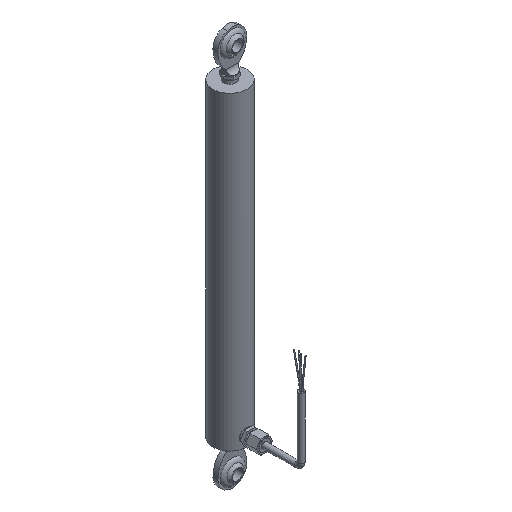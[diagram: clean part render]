
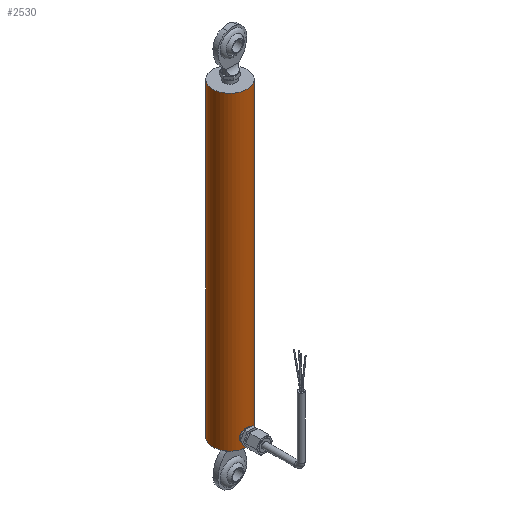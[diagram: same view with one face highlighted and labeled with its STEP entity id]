
A CAD part, isometric view. The second image highlights one B-rep face of the part: STEP entity #2530.
In plain terms, the highlighted cylindrical face has radius 13.335 mm (diameter 26.67 mm), a full revolution.
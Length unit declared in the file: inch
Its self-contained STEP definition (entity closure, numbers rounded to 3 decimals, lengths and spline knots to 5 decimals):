
#68=B_SPLINE_CURVE_WITH_KNOTS('',3,(#4339,#4340,#4341,#4342,#4343,#4344,
#4345,#4346,#4347,#4348),.UNSPECIFIED.,.F.,.F.,(4,2,2,2,4),(0.,0.19357,
0.38715,0.58056,0.77398),.UNSPECIFIED.);
#69=B_SPLINE_CURVE_WITH_KNOTS('',3,(#4349,#4350,#4351,#4352,#4353,#4354,
#4355,#4356,#4357,#4358),.UNSPECIFIED.,.F.,.F.,(4,2,2,2,4),(2.32194,
2.51535,2.70877,2.90234,3.09591),
 .UNSPECIFIED.);
#70=B_SPLINE_CURVE_WITH_KNOTS('',3,(#4360,#4361,#4362,#4363,#4364,#4365,
#4366,#4367,#4368,#4369,#4370,#4371,#4372,#4373,#4374,#4375,#4376,#4377),
 .UNSPECIFIED.,.F.,.F.,(4,2,2,2,2,2,2,2,4),(0.77398,0.96739,
1.16081,1.35438,1.54796,1.74153,1.93511,
2.12852,2.32194),.UNSPECIFIED.);
#153=CYLINDRICAL_SURFACE('',#2939,0.525);
#197=FACE_BOUND('',#580,.T.);
#262=CIRCLE('',#2927,0.525);
#268=CIRCLE('',#2940,0.525);
#414=FACE_OUTER_BOUND('',#579,.T.);
#579=EDGE_LOOP('',(#1886,#1887,#1888,#1889));
#580=EDGE_LOOP('',(#1890,#1891,#1892));
#765=LINE('',#4382,#911);
#911=VECTOR('',#3479,0.525);
#1077=VERTEX_POINT('',#4320);
#1081=VERTEX_POINT('',#4332);
#1082=VERTEX_POINT('',#4334);
#1083=VERTEX_POINT('',#4338);
#1084=VERTEX_POINT('',#4380);
#1360=EDGE_CURVE('',#1077,#1077,#262,.T.);
#1368=EDGE_CURVE('',#1083,#1081,#68,.T.);
#1369=EDGE_CURVE('',#1082,#1083,#69,.T.);
#1370=EDGE_CURVE('',#1081,#1082,#70,.T.);
#1371=EDGE_CURVE('',#1084,#1084,#268,.T.);
#1372=EDGE_CURVE('',#1084,#1077,#765,.T.);
#1886=ORIENTED_EDGE('',*,*,#1371,.F.);
#1887=ORIENTED_EDGE('',*,*,#1372,.T.);
#1888=ORIENTED_EDGE('',*,*,#1360,.T.);
#1889=ORIENTED_EDGE('',*,*,#1372,.F.);
#1890=ORIENTED_EDGE('',*,*,#1368,.T.);
#1891=ORIENTED_EDGE('',*,*,#1370,.T.);
#1892=ORIENTED_EDGE('',*,*,#1369,.T.);
#2530=ADVANCED_FACE('',(#414,#197),#153,.T.);
#2927=AXIS2_PLACEMENT_3D('',#4321,#3449,#3450);
#2939=AXIS2_PLACEMENT_3D('',#4379,#3475,#3476);
#2940=AXIS2_PLACEMENT_3D('',#4381,#3477,#3478);
#3449=DIRECTION('center_axis',(0.,0.,
1.));
#3450=DIRECTION('ref_axis',(-1.,0.,0.));
#3475=DIRECTION('center_axis',(0.,0.,
1.));
#3476=DIRECTION('ref_axis',(-1.,0.,0.));
#3477=DIRECTION('center_axis',(0.,0.,
1.));
#3478=DIRECTION('ref_axis',(-1.,0.,0.));
#3479=DIRECTION('',(0.,0.,-1.));
#4320=CARTESIAN_POINT('',(0.525,0.,0.));
#4321=CARTESIAN_POINT('Origin',(0.,0.,0.));
#4332=CARTESIAN_POINT('',(0.,-0.525,0.11847));
#4334=CARTESIAN_POINT('',(0.,-0.525,0.51847));
#4338=CARTESIAN_POINT('',(0.2,-0.48541,0.31847));
#4339=CARTESIAN_POINT('Ctrl Pts',(0.2,-0.48541,0.31847));
#4340=CARTESIAN_POINT('Ctrl Pts',(0.2,-0.48541,0.29307));
#4341=CARTESIAN_POINT('Ctrl Pts',(0.19487,-0.48762,
0.26617));
#4342=CARTESIAN_POINT('Ctrl Pts',(0.17439,-0.49531,
0.21699));
#4343=CARTESIAN_POINT('Ctrl Pts',(0.15904,-0.50066,
0.19467));
#4344=CARTESIAN_POINT('Ctrl Pts',(0.12381,-0.51052,
0.15944));
#4345=CARTESIAN_POINT('Ctrl Pts',(0.10149,-0.5157,
0.14409));
#4346=CARTESIAN_POINT('Ctrl Pts',(0.05229,-0.52298,
0.1236));
#4347=CARTESIAN_POINT('Ctrl Pts',(0.02538,-0.525,0.11847));
#4348=CARTESIAN_POINT('Ctrl Pts',(0.,-0.525,0.11847));
#4349=CARTESIAN_POINT('Ctrl Pts',(0.,-0.525,0.51847));
#4350=CARTESIAN_POINT('Ctrl Pts',(0.02538,-0.525,0.51847));
#4351=CARTESIAN_POINT('Ctrl Pts',(0.05229,-0.52298,
0.51335));
#4352=CARTESIAN_POINT('Ctrl Pts',(0.10149,-0.5157,
0.49285));
#4353=CARTESIAN_POINT('Ctrl Pts',(0.12381,-0.51052,
0.4775));
#4354=CARTESIAN_POINT('Ctrl Pts',(0.15904,-0.50066,
0.44227));
#4355=CARTESIAN_POINT('Ctrl Pts',(0.17439,-0.49531,
0.41996));
#4356=CARTESIAN_POINT('Ctrl Pts',(0.19487,-0.48762,
0.37077));
#4357=CARTESIAN_POINT('Ctrl Pts',(0.2,-0.48541,0.34388));
#4358=CARTESIAN_POINT('Ctrl Pts',(0.2,-0.48541,0.31847));
#4360=CARTESIAN_POINT('Ctrl Pts',(0.,-0.525,0.11847));
#4361=CARTESIAN_POINT('Ctrl Pts',(-0.02538,-0.525,0.11847));
#4362=CARTESIAN_POINT('Ctrl Pts',(-0.05229,-0.52298,
0.1236));
#4363=CARTESIAN_POINT('Ctrl Pts',(-0.10149,-0.5157,
0.14409));
#4364=CARTESIAN_POINT('Ctrl Pts',(-0.12381,-0.51052,
0.15944));
#4365=CARTESIAN_POINT('Ctrl Pts',(-0.15904,-0.50066,
0.19467));
#4366=CARTESIAN_POINT('Ctrl Pts',(-0.17439,-0.49531,
0.21699));
#4367=CARTESIAN_POINT('Ctrl Pts',(-0.19487,-0.48762,
0.26617));
#4368=CARTESIAN_POINT('Ctrl Pts',(-0.2,-0.48541,0.29307));
#4369=CARTESIAN_POINT('Ctrl Pts',(-0.2,-0.48541,0.34388));
#4370=CARTESIAN_POINT('Ctrl Pts',(-0.19487,-0.48762,
0.37077));
#4371=CARTESIAN_POINT('Ctrl Pts',(-0.17439,-0.49531,
0.41996));
#4372=CARTESIAN_POINT('Ctrl Pts',(-0.15904,-0.50066,
0.44227));
#4373=CARTESIAN_POINT('Ctrl Pts',(-0.12381,-0.51052,
0.4775));
#4374=CARTESIAN_POINT('Ctrl Pts',(-0.10149,-0.5157,
0.49285));
#4375=CARTESIAN_POINT('Ctrl Pts',(-0.05229,-0.52298,
0.51335));
#4376=CARTESIAN_POINT('Ctrl Pts',(-0.02538,-0.525,0.51847));
#4377=CARTESIAN_POINT('Ctrl Pts',(0.,-0.525,0.51847));
#4379=CARTESIAN_POINT('Origin',(0.,0.,0.));
#4380=CARTESIAN_POINT('',(0.525,0.,9.5));
#4381=CARTESIAN_POINT('Origin',(0.,0.,
9.5));
#4382=CARTESIAN_POINT('',(0.525,0.,0.));
